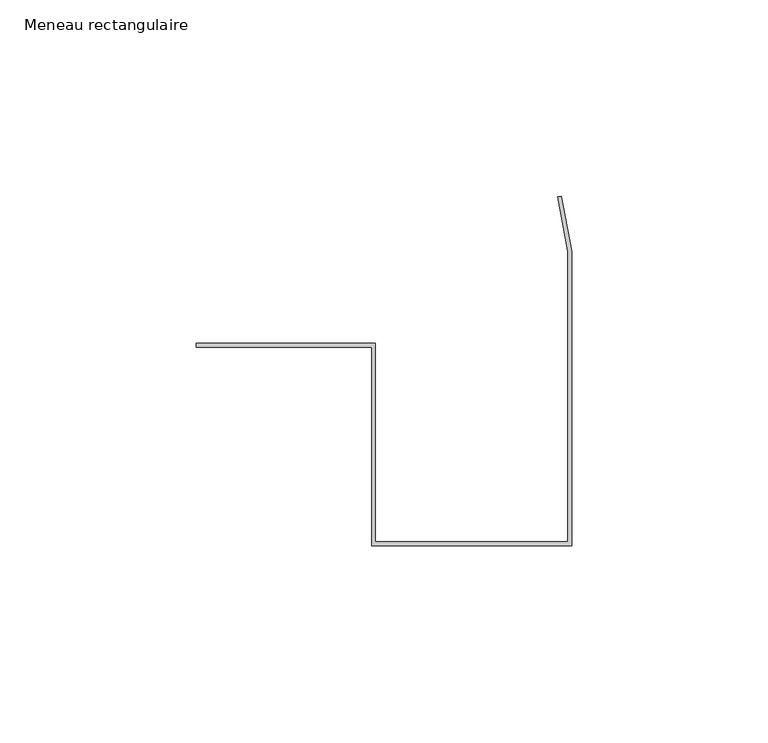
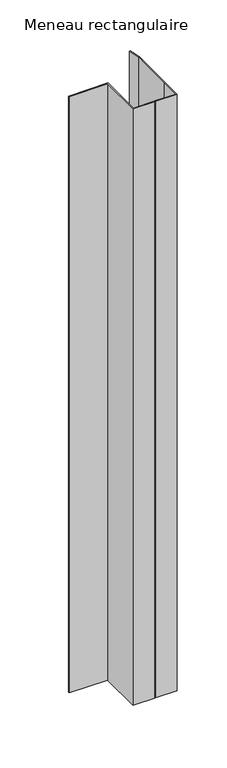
"""IFC4 building model written with IfcOpenShell, lengths in millimetres: member geometry, Meneau rectangulaire : Jonction contre mur Gauche H."""

from ifc_helpers import new_model, si_unit, frame, origin, place, context, project, spatial, polyline, outline, extrude, source, transform, mapped, element, save


def meneau_rectangulaire_fa6a0a9a(model_context):
    return source(origin(), model_context, "Body", "SweptSolid", [
        extrude(outline(polyline([(-1.0, 26.3950161), (-3.6043568, 40.2612876), (-2.6384309, 40.4427073), (0.0, 26.3950161), (0.0, -23.6049839), (0.0, -48.6049839), (-25.0, -48.6049839), (-26.0, -48.6049839), (-51.0, -48.6049839), (-51.0, 2.0), (-95.6686418, 2.0), (-95.6686418, 3.0), (-50.0, 3.0), (-50.0, -47.6049839), (-26.0, -47.6049839), (-25.0, -47.6049839), (-1.0, -47.6049839), (-1.0, -23.6049839), (-1.0, 26.3950161)])), frame((0.0, 0.0, -728.0), z_axis=(0.0, 0.0, 1.0), x_axis=(1.0, 0.0, 0.0)), (0.0, 0.0, 1.0), 728.0),
    ])


if __name__ == "__main__":
    model = new_model("IFC4")
    model_context = context("Model", 3, world=origin())
    ifc_project = project(units=[si_unit("LENGTHUNIT", "METRE", prefix="MILLI")], contexts=[model_context])
    site = spatial("IfcSite", under=ifc_project)
    building = spatial("IfcBuilding", under=site)
    placement = place(None, origin())
    meneau_rectangulaire_shape = meneau_rectangulaire_fa6a0a9a(model_context)
    element("IfcMember", 1, ObjectType="Meneau rectangulaire : Jonction contre mur Gauche H", at=placement, inside=building, context=model_context, shape_type="MappedRepresentation", body=[
        mapped(meneau_rectangulaire_shape, transform((0.0, 0.0, 0.0), x_axis=(1.0, 0.0, 0.0), y_axis=(0.0, 1.0, 0.0), z_axis=(0.0, 0.0, 1.0))),
    ])
    save(model, "model.ifc")
